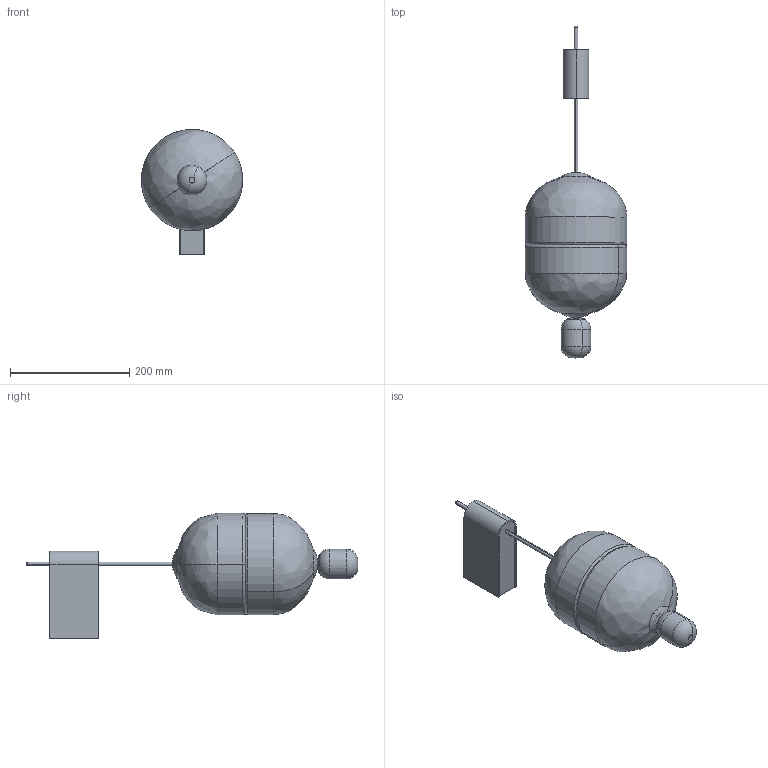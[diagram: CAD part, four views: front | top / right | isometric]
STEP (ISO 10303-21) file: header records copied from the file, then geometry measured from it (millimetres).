
FILE_DESCRIPTION (( 'STEP AP203' ), '1' );
FILE_NAME ('Light Weight - Indre - Indre Wall Mount A.STEP', '2023-06-13T07:16:21', ( '' ), ( '' ), 'SwSTEP 2.0', 'SolidWorks 2017', '' );
FILE_SCHEMA (( 'CONFIG_CONTROL_DESIGN' ));
Length unit declared in the file: millimetre
Products named in the file (1): Light Weight - Indre - Indre Wall Mount A
Bounding box: 170 x 556.64 x 210 mm (x, y, z)
Volume: 1026065 mm3; surface area: 476584.8 mm2
Topology: 9 solids, 9 shells, 175 faces, 407 edges, 247 vertices
Faces by surface type: cylinder 60, torus 38, plane 31, bspline 24, sphere 12, cone 10
Entity records: 6858 total; most frequent: CARTESIAN_POINT 2770, DIRECTION 921, ORIENTED_EDGE 810, AXIS2_PLACEMENT_3D 408, EDGE_CURVE 405, CIRCLE 256, VERTEX_POINT 247, EDGE_LOOP 186
